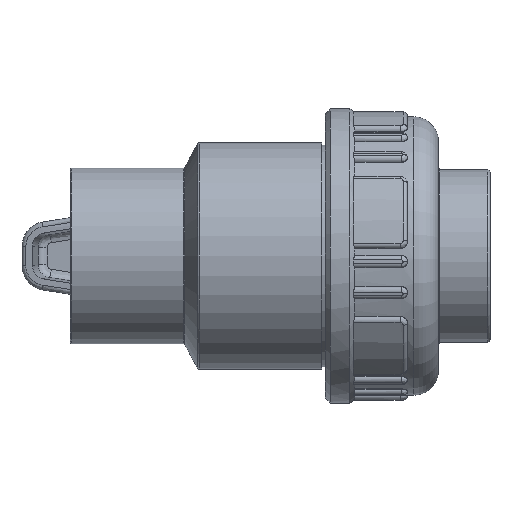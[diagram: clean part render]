
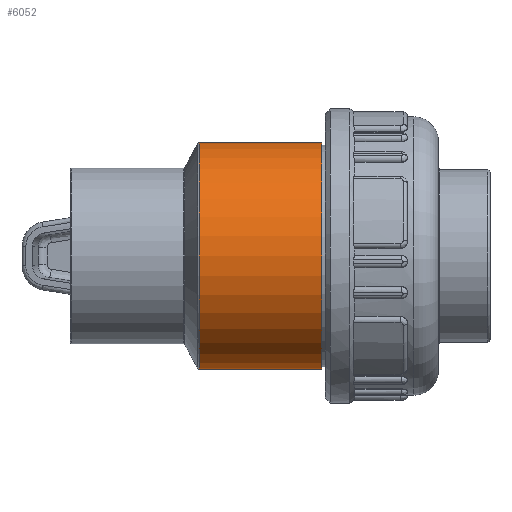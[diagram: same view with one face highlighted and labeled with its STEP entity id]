
A CAD part, left-side view. The second image highlights one B-rep face of the part: STEP entity #6052.
In plain terms, the highlighted cylindrical face has radius 23.075 mm (diameter 46.15 mm), a full revolution.
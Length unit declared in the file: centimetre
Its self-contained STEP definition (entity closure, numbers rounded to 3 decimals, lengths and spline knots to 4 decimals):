
#274=CYLINDRICAL_SURFACE('',#6601,2.3075);
#325=FACE_BOUND('',#1324,.T.);
#326=FACE_BOUND('',#1325,.T.);
#593=CIRCLE('',#6602,2.3075);
#594=CIRCLE('',#6603,2.3075);
#939=FACE_OUTER_BOUND('',#1323,.T.);
#1323=EDGE_LOOP('',(#5112));
#1324=EDGE_LOOP('',(#5113));
#1325=EDGE_LOOP('',(#5114));
#2197=B_SPLINE_CURVE_WITH_KNOTS('',3,(#33079,#33080,#33081,#33082,#33083,
#33084,#33085,#33086,#33087,#33088,#33089,#33090,#33091,#33092,#33093,#33094,
#33095,#33096),.UNSPECIFIED.,.T.,.F.,(4,1,1,1,1,1,1,1,1,1,1,1,1,1,1,4),
(-6.6874,-6.2097,-5.7321,-5.2544,
-4.7767,-4.299,-3.8214,-3.5029,
-3.1845,-2.866,-2.3884,-1.9107,
-1.433,-0.9553,-0.4777,0.),
 .UNSPECIFIED.);
#2714=VERTEX_POINT('',#33058);
#2719=VERTEX_POINT('',#33115);
#2720=VERTEX_POINT('',#33117);
#3522=EDGE_CURVE('',#2714,#2714,#2197,.T.);
#3528=EDGE_CURVE('',#2719,#2719,#593,.T.);
#3529=EDGE_CURVE('',#2720,#2720,#594,.T.);
#5112=ORIENTED_EDGE('',*,*,#3528,.F.);
#5113=ORIENTED_EDGE('',*,*,#3529,.T.);
#5114=ORIENTED_EDGE('',*,*,#3522,.F.);
#6052=ADVANCED_FACE('',(#939,#325,#326),#274,.T.);
#6601=AXIS2_PLACEMENT_3D('',#33114,#7981,#7982);
#6602=AXIS2_PLACEMENT_3D('',#33116,#7983,#7984);
#6603=AXIS2_PLACEMENT_3D('',#33118,#7985,#7986);
#7981=DIRECTION('center_axis',(0.,1.,0.));
#7982=DIRECTION('ref_axis',(-1.,0.,0.));
#7983=DIRECTION('center_axis',(0.,1.,0.));
#7984=DIRECTION('ref_axis',(1.,0.,0.));
#7985=DIRECTION('center_axis',(0.,1.,0.));
#7986=DIRECTION('ref_axis',(1.,0.,0.));
#33058=CARTESIAN_POINT('',(2.0254,0.,1.1056));
#33079=CARTESIAN_POINT('Ctrl Pts',(2.0251,0.,
1.1058));
#33080=CARTESIAN_POINT('Ctrl Pts',(2.0251,-0.1698,
1.1058));
#33081=CARTESIAN_POINT('Ctrl Pts',(2.071,-0.5095,
1.0265));
#33082=CARTESIAN_POINT('Ctrl Pts',(2.2067,-0.901,
0.7153));
#33083=CARTESIAN_POINT('Ctrl Pts',(2.3115,-1.1294,0.2607));
#33084=CARTESIAN_POINT('Ctrl Pts',(2.3118,-1.1292,-0.2607));
#33085=CARTESIAN_POINT('Ctrl Pts',(2.2064,-0.9016,-0.7153));
#33086=CARTESIAN_POINT('Ctrl Pts',(2.0866,-0.5521,-0.9917));
#33087=CARTESIAN_POINT('Ctrl Pts',(2.0232,-0.1729,
-1.1098));
#33088=CARTESIAN_POINT('Ctrl Pts',(2.0231,0.1729,-1.1099));
#33089=CARTESIAN_POINT('Ctrl Pts',(2.0866,0.5521,-0.9916));
#33090=CARTESIAN_POINT('Ctrl Pts',(2.2064,0.9016,-0.7154));
#33091=CARTESIAN_POINT('Ctrl Pts',(2.3117,1.129,-0.2607));
#33092=CARTESIAN_POINT('Ctrl Pts',(2.3115,1.1294,0.2607));
#33093=CARTESIAN_POINT('Ctrl Pts',(2.2067,0.901,0.7153));
#33094=CARTESIAN_POINT('Ctrl Pts',(2.071,0.5093,1.0265));
#33095=CARTESIAN_POINT('Ctrl Pts',(2.0252,0.1698,1.1058));
#33096=CARTESIAN_POINT('Ctrl Pts',(2.0251,0.,
1.1058));
#33114=CARTESIAN_POINT('Origin',(0.,0.08,
0.));
#33115=CARTESIAN_POINT('',(-2.3075,1.3221,0.));
#33116=CARTESIAN_POINT('Origin',(0.,1.3221,
0.));
#33117=CARTESIAN_POINT('',(-2.3075,-1.18,0.));
#33118=CARTESIAN_POINT('Origin',(0.,-1.18,0.));
